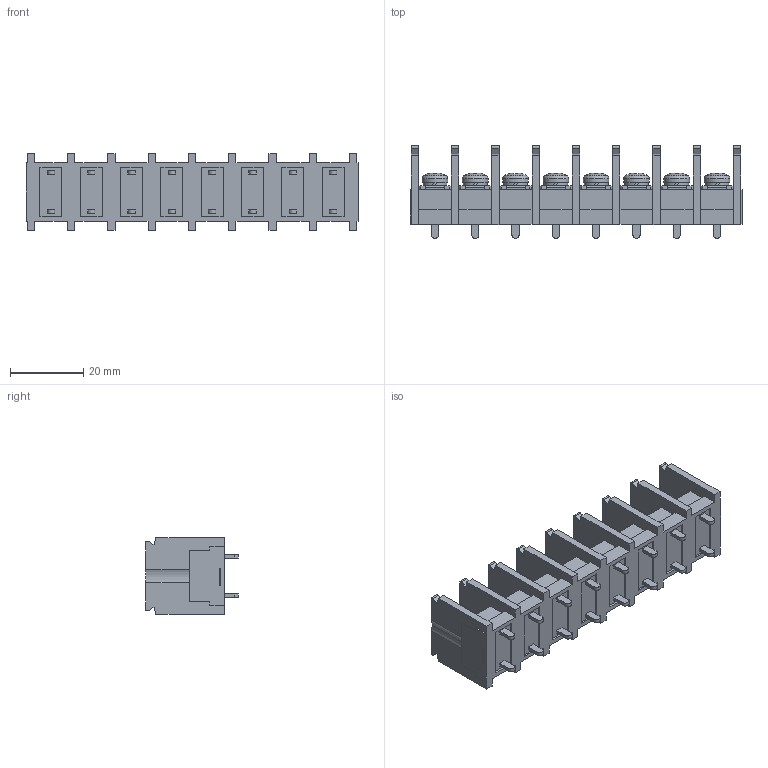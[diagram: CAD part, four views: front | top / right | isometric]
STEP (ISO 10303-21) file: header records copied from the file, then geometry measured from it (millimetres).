
FILE_DESCRIPTION(/* description */ ('Alibre Inc.'),/* implementation_level */ '2;1');
FILE_NAME(/* name */ 'export0',/* time_stamp */ '2015-12-02T12:35:36+09:00',/* author */ (''),/* organization */ (''),/* preprocessor_version */ 'ST-DEVELOPER v14',/* originating_system */ 'Alibre',/* authorisation */ '');
FILE_SCHEMA (('CONFIG_CONTROL_DESIGN'));
Length unit declared in the file: centimetre
Products named in the file (1): ID_1
Bounding box: 90.6 x 25.3 x 21 mm (x, y, z)
Volume: 16397.6 mm3; surface area: 17521.7 mm2
Topology: 1 solids, 17 shells, 1218 faces, 3308 edges, 2200 vertices
Faces by surface type: plane 958, bspline 104, cylinder 100, cone 40, sphere 8, torus 8
Full cylindrical faces by diameter (mm): 4 x8, 6.5 x8, 7 x8
Entity records: 36619 total; most frequent: CARTESIAN_POINT 7732, ORIENTED_EDGE 6552, DIRECTION 4545, EDGE_CURVE 3276, VECTOR 2511, LINE 2511, VERTEX_POINT 2200, AXIS2_PLACEMENT_3D 1453
